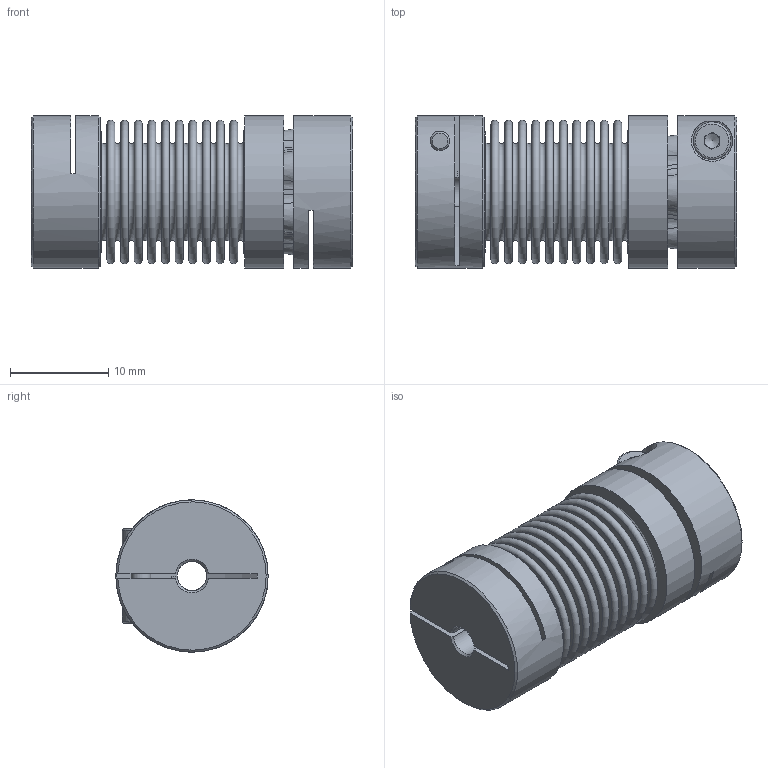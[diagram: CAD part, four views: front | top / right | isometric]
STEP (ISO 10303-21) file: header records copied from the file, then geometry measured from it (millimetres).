
FILE_DESCRIPTION( ( 'KBE1/14 - N7H8 - N14H7 - 98 Sh' ), '1' );
FILE_NAME( 'K:/Konstruktion/Fertigungszeichnungen/Metallbalgkupplung/KB2P/5-10/KB2P-10-32.stp', '14.12.2015', ( 'KBK-Antriebstechnik' ), ( 'KBK-Antriebstechnik' ), 'PSStep 16.0.42', 'Solid Edge St6', ' ' );
FILE_SCHEMA( ( 'AUTOMOTIVE_DESIGN { 1 0 10303 214 1 1 1 1 }' ) );
Length unit declared in the file: millimetre
Products named in the file (6): Assem1; Stecknabe KB2P-10; Socket Head Cap Screw_DIN_DIN 912 M2 x 8 --- 8N_5; KN5_Standard_2; Balgaufnahme KB2P-10_für Step; BL5_Standard_0
Assembly tree (6 placements, depth 2):
  Assem1
    Stecknabe KB2P-10
    Socket Head Cap Screw_DIN_DIN 912 M2 x 8 --- 8N_5  x2
    KN5_Standard_2
    Balgaufnahme KB2P-10_für Step
    BL5_Standard_0
Bounding box: 32.7 x 15.5 x 15.5 mm (x, y, z)
Volume: 3254.9 mm3; surface area: 7785 mm2
Topology: 6 solids, 6 shells, 228 faces, 486 edges, 317 vertices
Faces by surface type: plane 99, cone 54, torus 51, cylinder 24
Full cylindrical faces by diameter (mm): 1.567 x1, 2 x3, 2.2 x2, 3 x2, 3.8 x2, 12.9 x2, 13.1 x2, 15.5 x3
Entity records: 7327 total; most frequent: CARTESIAN_POINT 1126, DIRECTION 1005, ORIENTED_EDGE 726, AXIS2_PLACEMENT_3D 454, EDGE_CURVE 363, EDGE_LOOP 337, VERTEX_POINT 301, FACE_OUTER_BOUND 271
